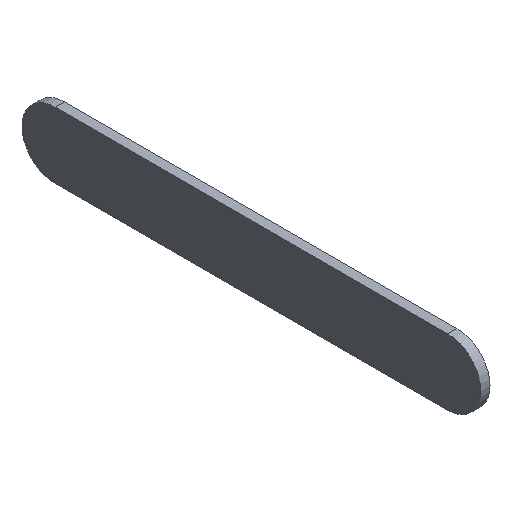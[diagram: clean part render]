
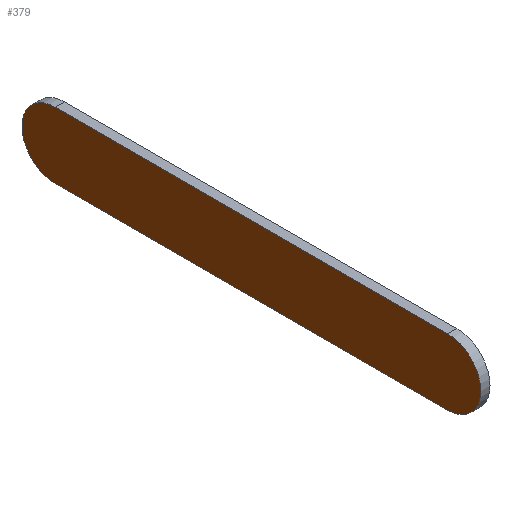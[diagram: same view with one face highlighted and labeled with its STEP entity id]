
A CAD part, isometric view. The second image highlights one B-rep face of the part: STEP entity #379.
In plain terms, the highlighted planar face has unit normal (-1, 0, 0).
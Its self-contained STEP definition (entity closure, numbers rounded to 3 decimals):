
#32 = PLANE('',#33);
#33 = AXIS2_PLACEMENT_3D('',#34,#35,#36);
#34 = CARTESIAN_POINT('',(-40.,-29.,19.25));
#35 = DIRECTION('',(0.,0.,1.));
#36 = DIRECTION('',(0.,1.,0.));
#57 = VERTEX_POINT('',#58);
#58 = CARTESIAN_POINT('',(-40.7,30.4,19.25));
#72 = CYLINDRICAL_SURFACE('',#73,5.);
#73 = AXIS2_PLACEMENT_3D('',#74,#75,#76);
#74 = CARTESIAN_POINT('',(-40.,30.4,14.25));
#75 = DIRECTION('',(-1.,0.,0.));
#76 = DIRECTION('',(0.,0.,1.));
#84 = EDGE_CURVE('',#85,#57,#87,.T.);
#85 = VERTEX_POINT('',#86);
#86 = CARTESIAN_POINT('',(-40.7,-29.,19.25));
#87 = SURFACE_CURVE('',#88,(#92,#99),.PCURVE_S1.);
#88 = LINE('',#89,#90);
#89 = CARTESIAN_POINT('',(-40.7,-29.,19.25));
#90 = VECTOR('',#91,1.);
#91 = DIRECTION('',(0.,1.,0.));
#92 = PCURVE('',#32,#93);
#93 = DEFINITIONAL_REPRESENTATION('',(#94),#98);
#94 = LINE('',#95,#96);
#95 = CARTESIAN_POINT('',(0.,0.7));
#96 = VECTOR('',#97,1.);
#97 = DIRECTION('',(1.,0.));
#98 = ( GEOMETRIC_REPRESENTATION_CONTEXT(2) 
PARAMETRIC_REPRESENTATION_CONTEXT() REPRESENTATION_CONTEXT('2D SPACE',''
  ) );
#99 = PCURVE('',#100,#105);
#100 = PLANE('',#101);
#101 = AXIS2_PLACEMENT_3D('',#102,#103,#104);
#102 = CARTESIAN_POINT('',(-40.7,0.7,14.25));
#103 = DIRECTION('',(-1.,-0.,-0.));
#104 = DIRECTION('',(0.,0.,-1.));
#105 = DEFINITIONAL_REPRESENTATION('',(#106),#110);
#106 = LINE('',#107,#108);
#107 = CARTESIAN_POINT('',(-5.,29.7));
#108 = VECTOR('',#109,1.);
#109 = DIRECTION('',(0.,-1.));
#110 = ( GEOMETRIC_REPRESENTATION_CONTEXT(2) 
PARAMETRIC_REPRESENTATION_CONTEXT() REPRESENTATION_CONTEXT('2D SPACE',''
  ) );
#126 = CYLINDRICAL_SURFACE('',#127,5.);
#127 = AXIS2_PLACEMENT_3D('',#128,#129,#130);
#128 = CARTESIAN_POINT('',(-40.,-29.,14.25));
#129 = DIRECTION('',(-1.,0.,0.));
#130 = DIRECTION('',(0.,0.,-1.));
#182 = PLANE('',#183);
#183 = AXIS2_PLACEMENT_3D('',#184,#185,#186);
#184 = CARTESIAN_POINT('',(-40.,30.4,9.25));
#185 = DIRECTION('',(0.,0.,-1.));
#186 = DIRECTION('',(0.,-1.,0.));
#336 = VERTEX_POINT('',#337);
#337 = CARTESIAN_POINT('',(-40.7,30.4,9.25));
#358 = EDGE_CURVE('',#57,#336,#359,.T.);
#359 = SURFACE_CURVE('',#360,(#365,#372),.PCURVE_S1.);
#360 = CIRCLE('',#361,5.);
#361 = AXIS2_PLACEMENT_3D('',#362,#363,#364);
#362 = CARTESIAN_POINT('',(-40.7,30.4,14.25));
#363 = DIRECTION('',(-1.,0.,0.));
#364 = DIRECTION('',(0.,0.,1.));
#365 = PCURVE('',#72,#366);
#366 = DEFINITIONAL_REPRESENTATION('',(#367),#371);
#367 = LINE('',#368,#369);
#368 = CARTESIAN_POINT('',(-0.,0.7));
#369 = VECTOR('',#370,1.);
#370 = DIRECTION('',(1.,-0.));
#371 = ( GEOMETRIC_REPRESENTATION_CONTEXT(2) 
PARAMETRIC_REPRESENTATION_CONTEXT() REPRESENTATION_CONTEXT('2D SPACE',''
  ) );
#372 = PCURVE('',#100,#373);
#373 = DEFINITIONAL_REPRESENTATION('',(#374),#378);
#374 = CIRCLE('',#375,5.);
#375 = AXIS2_PLACEMENT_2D('',#376,#377);
#376 = CARTESIAN_POINT('',(0.,-29.7));
#377 = DIRECTION('',(-1.,0.));
#378 = ( GEOMETRIC_REPRESENTATION_CONTEXT(2) 
PARAMETRIC_REPRESENTATION_CONTEXT() REPRESENTATION_CONTEXT('2D SPACE',''
  ) );
#379 = ADVANCED_FACE('',(#380),#100,.T.);
#380 = FACE_BOUND('',#381,.T.);
#381 = EDGE_LOOP('',(#382,#383,#384,#407));
#382 = ORIENTED_EDGE('',*,*,#84,.T.);
#383 = ORIENTED_EDGE('',*,*,#358,.T.);
#384 = ORIENTED_EDGE('',*,*,#385,.T.);
#385 = EDGE_CURVE('',#336,#386,#388,.T.);
#386 = VERTEX_POINT('',#387);
#387 = CARTESIAN_POINT('',(-40.7,-29.,9.25));
#388 = SURFACE_CURVE('',#389,(#393,#400),.PCURVE_S1.);
#389 = LINE('',#390,#391);
#390 = CARTESIAN_POINT('',(-40.7,30.4,9.25));
#391 = VECTOR('',#392,1.);
#392 = DIRECTION('',(0.,-1.,0.));
#393 = PCURVE('',#100,#394);
#394 = DEFINITIONAL_REPRESENTATION('',(#395),#399);
#395 = LINE('',#396,#397);
#396 = CARTESIAN_POINT('',(5.,-29.7));
#397 = VECTOR('',#398,1.);
#398 = DIRECTION('',(0.,1.));
#399 = ( GEOMETRIC_REPRESENTATION_CONTEXT(2) 
PARAMETRIC_REPRESENTATION_CONTEXT() REPRESENTATION_CONTEXT('2D SPACE',''
  ) );
#400 = PCURVE('',#182,#401);
#401 = DEFINITIONAL_REPRESENTATION('',(#402),#406);
#402 = LINE('',#403,#404);
#403 = CARTESIAN_POINT('',(0.,0.7));
#404 = VECTOR('',#405,1.);
#405 = DIRECTION('',(1.,0.));
#406 = ( GEOMETRIC_REPRESENTATION_CONTEXT(2) 
PARAMETRIC_REPRESENTATION_CONTEXT() REPRESENTATION_CONTEXT('2D SPACE',''
  ) );
#407 = ORIENTED_EDGE('',*,*,#408,.T.);
#408 = EDGE_CURVE('',#386,#85,#409,.T.);
#409 = SURFACE_CURVE('',#410,(#415,#422),.PCURVE_S1.);
#410 = CIRCLE('',#411,5.);
#411 = AXIS2_PLACEMENT_3D('',#412,#413,#414);
#412 = CARTESIAN_POINT('',(-40.7,-29.,14.25));
#413 = DIRECTION('',(-1.,0.,0.));
#414 = DIRECTION('',(0.,0.,-1.));
#415 = PCURVE('',#100,#416);
#416 = DEFINITIONAL_REPRESENTATION('',(#417),#421);
#417 = CIRCLE('',#418,5.);
#418 = AXIS2_PLACEMENT_2D('',#419,#420);
#419 = CARTESIAN_POINT('',(0.,29.7));
#420 = DIRECTION('',(1.,0.));
#421 = ( GEOMETRIC_REPRESENTATION_CONTEXT(2) 
PARAMETRIC_REPRESENTATION_CONTEXT() REPRESENTATION_CONTEXT('2D SPACE',''
  ) );
#422 = PCURVE('',#126,#423);
#423 = DEFINITIONAL_REPRESENTATION('',(#424),#428);
#424 = LINE('',#425,#426);
#425 = CARTESIAN_POINT('',(-0.,0.7));
#426 = VECTOR('',#427,1.);
#427 = DIRECTION('',(1.,-0.));
#428 = ( GEOMETRIC_REPRESENTATION_CONTEXT(2) 
PARAMETRIC_REPRESENTATION_CONTEXT() REPRESENTATION_CONTEXT('2D SPACE',''
  ) );
